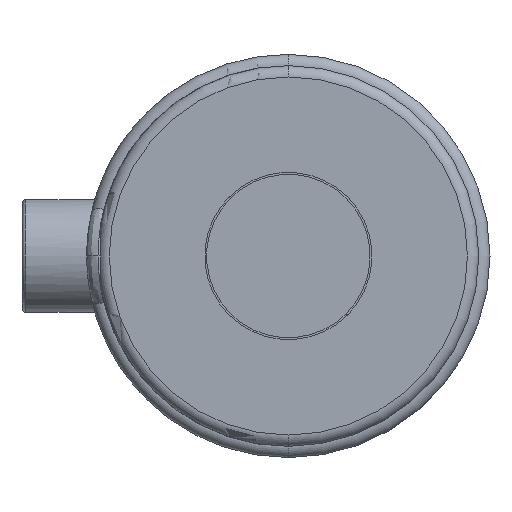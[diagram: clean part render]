
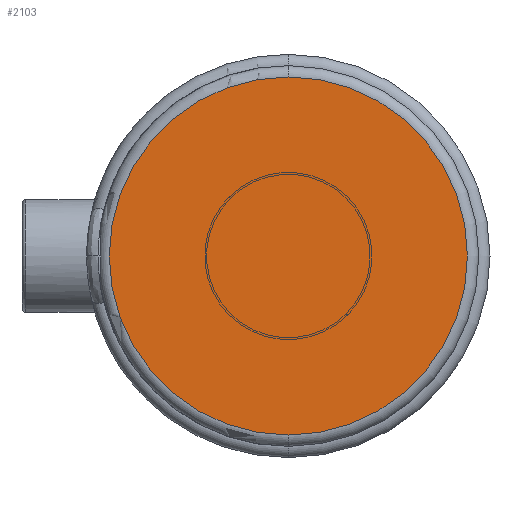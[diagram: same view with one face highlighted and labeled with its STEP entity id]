
A CAD part, left-side view. The second image highlights one B-rep face of the part: STEP entity #2103.
In plain terms, the highlighted planar face has unit normal (-1, 0, 0).
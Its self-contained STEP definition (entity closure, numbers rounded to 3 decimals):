
#151 = FACE_OUTER_BOUND ( 'NONE', #1475, .T. ) ;
#462 = CARTESIAN_POINT ( 'NONE',  ( 0., 0., 0. ) ) ;
#917 = DIRECTION ( 'NONE',  ( 0., 0., 1. ) ) ;
#1455 = DIRECTION ( 'NONE',  ( 0., 0., 1. ) ) ;
#1475 = EDGE_LOOP ( 'NONE', ( #2310, #2751 ) ) ;
#1916 = CARTESIAN_POINT ( 'NONE',  ( 0., 0., 0. ) ) ;
#2094 = VERTEX_POINT ( 'NONE', #3262 ) ;
#2103 = ADVANCED_FACE ( 'NONE', ( #151 ), #3776, .T. ) ;
#2310 = ORIENTED_EDGE ( 'NONE', *, *, #4038, .T. ) ;
#2381 = DIRECTION ( 'NONE',  ( 0., 0., 1. ) ) ;
#2530 = EDGE_CURVE ( 'NONE', #2094, #4679, #5328, .T. ) ;
#2751 = ORIENTED_EDGE ( 'NONE', *, *, #2530, .T. ) ;
#2788 = CARTESIAN_POINT ( 'NONE',  ( 0., 0., 0. ) ) ;
#3262 = CARTESIAN_POINT ( 'NONE',  ( 0., 0., -47.6 ) ) ;
#3467 = CIRCLE ( 'NONE', #5826, 47.6 ) ;
#3697 = DIRECTION ( 'NONE',  ( -1., 0., 0. ) ) ;
#3776 = PLANE ( 'NONE',  #5046 ) ;
#3965 = AXIS2_PLACEMENT_3D ( 'NONE', #1916, #5213, #2381 ) ;
#4038 = EDGE_CURVE ( 'NONE', #4679, #2094, #3467, .T. ) ;
#4250 = DIRECTION ( 'NONE',  ( -1., 0., 0. ) ) ;
#4459 = CARTESIAN_POINT ( 'NONE',  ( 0., 0., 47.6 ) ) ;
#4679 = VERTEX_POINT ( 'NONE', #4459 ) ;
#5046 = AXIS2_PLACEMENT_3D ( 'NONE', #2788, #4250, #1455 ) ;
#5213 = DIRECTION ( 'NONE',  ( -1., 0., 0. ) ) ;
#5328 = CIRCLE ( 'NONE', #3965, 47.6 ) ;
#5826 = AXIS2_PLACEMENT_3D ( 'NONE', #462, #3697, #917 ) ;
